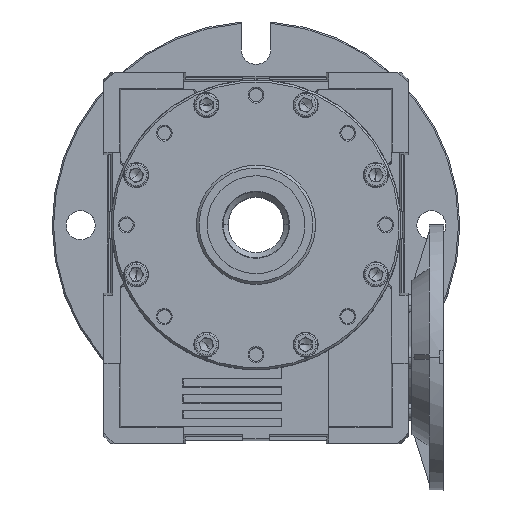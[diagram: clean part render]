
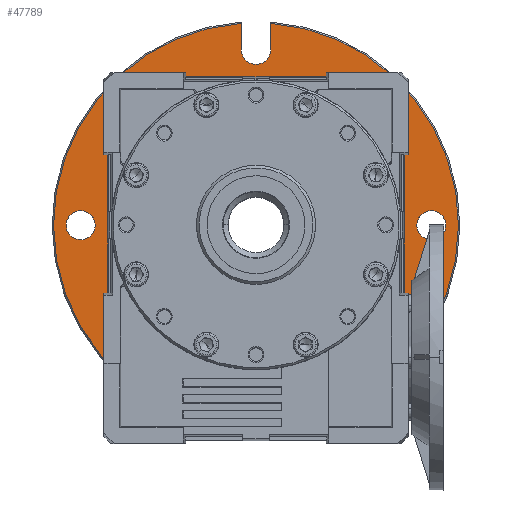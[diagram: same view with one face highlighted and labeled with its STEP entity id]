
A CAD part, top view. The second image highlights one B-rep face of the part: STEP entity #47789.
In plain terms, the highlighted planar face has unit normal (0, 0, 1).
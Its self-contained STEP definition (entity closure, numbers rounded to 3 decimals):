
#184 = CARTESIAN_POINT ( 'NONE',  ( -11., 132.5, -106. ) ) ;
#621 = ORIENTED_EDGE ( 'NONE', *, *, #53093, .T. ) ;
#713 = FACE_OUTER_BOUND ( 'NONE', #35939, .T. ) ;
#1209 = DIRECTION ( 'NONE',  ( 0., 0., -1. ) ) ;
#1382 = DIRECTION ( 'NONE',  ( 0., 0., -1. ) ) ;
#1559 = CARTESIAN_POINT ( 'NONE',  ( -132.5, 0., -106. ) ) ;
#2357 = CIRCLE ( 'NONE', #35630, 109.5 ) ;
#2867 = LINE ( 'NONE', #40014, #3992 ) ;
#3201 = VERTEX_POINT ( 'NONE', #32274 ) ;
#3537 = VERTEX_POINT ( 'NONE', #54125 ) ;
#3944 = EDGE_LOOP ( 'NONE', ( #33892, #40387 ) ) ;
#3949 = DIRECTION ( 'NONE',  ( -1., 0., 0. ) ) ;
#3992 = VECTOR ( 'NONE', #26654, 1000. ) ;
#4251 = DIRECTION ( 'NONE',  ( 0., 0., -1. ) ) ;
#4479 = CARTESIAN_POINT ( 'NONE',  ( 11., 152.604, -106. ) ) ;
#4852 = AXIS2_PLACEMENT_3D ( 'NONE', #27542, #40596, #50656 ) ;
#5261 = CARTESIAN_POINT ( 'NONE',  ( 109.5, 0., -106. ) ) ;
#5745 = EDGE_CURVE ( 'NONE', #25923, #22886, #17001, .T. ) ;
#6092 = VERTEX_POINT ( 'NONE', #33162 ) ;
#6662 = ORIENTED_EDGE ( 'NONE', *, *, #54999, .T. ) ;
#6681 = DIRECTION ( 'NONE',  ( -1., 0., 0. ) ) ;
#7050 = VERTEX_POINT ( 'NONE', #20973 ) ;
#7400 = EDGE_CURVE ( 'NONE', #43192, #6092, #2357, .T. ) ;
#7861 = EDGE_CURVE ( 'NONE', #7050, #48952, #38522, .T. ) ;
#9386 = CARTESIAN_POINT ( 'NONE',  ( -11., 109.5, -106. ) ) ;
#9792 = ORIENTED_EDGE ( 'NONE', *, *, #22401, .T. ) ;
#11370 = CIRCLE ( 'NONE', #29495, 11. ) ;
#11772 = DIRECTION ( 'NONE',  ( -1., 0., 0. ) ) ;
#11891 = DIRECTION ( 'NONE',  ( -1., 0., 0. ) ) ;
#12683 = ORIENTED_EDGE ( 'NONE', *, *, #5745, .T. ) ;
#13552 = DIRECTION ( 'NONE',  ( 0., 0., 1. ) ) ;
#15446 = DIRECTION ( 'NONE',  ( 0., 0., -1. ) ) ;
#16631 = VECTOR ( 'NONE', #28761, 1000. ) ;
#16642 = VERTEX_POINT ( 'NONE', #44309 ) ;
#16785 = CARTESIAN_POINT ( 'NONE',  ( 0., 0., -106. ) ) ;
#17001 = CIRCLE ( 'NONE', #38881, 153. ) ;
#17130 = ORIENTED_EDGE ( 'NONE', *, *, #48810, .T. ) ;
#17321 = CARTESIAN_POINT ( 'NONE',  ( -143.5, 0., -106. ) ) ;
#18015 = FACE_BOUND ( 'NONE', #24247, .T. ) ;
#18220 = CARTESIAN_POINT ( 'NONE',  ( 121.5, 0., -106. ) ) ;
#18615 = DIRECTION ( 'NONE',  ( -1., 0., 0. ) ) ;
#18987 = AXIS2_PLACEMENT_3D ( 'NONE', #41970, #1209, #19407 ) ;
#19064 = VERTEX_POINT ( 'NONE', #18220 ) ;
#19157 = DIRECTION ( 'NONE',  ( -1., 0., 0. ) ) ;
#19407 = DIRECTION ( 'NONE',  ( -1., 0., 0. ) ) ;
#20009 = VERTEX_POINT ( 'NONE', #184 ) ;
#20106 = CARTESIAN_POINT ( 'NONE',  ( 132.5, 0., -106. ) ) ;
#20155 = EDGE_LOOP ( 'NONE', ( #56930, #51628 ) ) ;
#20205 = DIRECTION ( 'NONE',  ( -1., 0., 0. ) ) ;
#20387 = DIRECTION ( 'NONE',  ( 1., 0., 0. ) ) ;
#20454 = DIRECTION ( 'NONE',  ( -1., 0., 0. ) ) ;
#20973 = CARTESIAN_POINT ( 'NONE',  ( -11., 152.604, -106. ) ) ;
#21340 = EDGE_CURVE ( 'NONE', #6092, #43192, #56306, .T. ) ;
#22356 = ORIENTED_EDGE ( 'NONE', *, *, #7861, .T. ) ;
#22401 = EDGE_CURVE ( 'NONE', #3537, #20009, #40716, .T. ) ;
#22886 = VERTEX_POINT ( 'NONE', #4479 ) ;
#23169 = CARTESIAN_POINT ( 'NONE',  ( -121.5, 0., -106. ) ) ;
#23613 = DIRECTION ( 'NONE',  ( 0., 0., -1. ) ) ;
#24247 = EDGE_LOOP ( 'NONE', ( #47906, #55712 ) ) ;
#25306 = CARTESIAN_POINT ( 'NONE',  ( 0., 0., -106. ) ) ;
#25923 = VERTEX_POINT ( 'NONE', #29250 ) ;
#26057 = DIRECTION ( 'NONE',  ( 0., 0., 1. ) ) ;
#26654 = DIRECTION ( 'NONE',  ( 0., -1., 0. ) ) ;
#27542 = CARTESIAN_POINT ( 'NONE',  ( 0., 109.5, -106. ) ) ;
#28153 = DIRECTION ( 'NONE',  ( 0., 0., -1. ) ) ;
#28692 = CARTESIAN_POINT ( 'NONE',  ( 132.5, 0., -106. ) ) ;
#28761 = DIRECTION ( 'NONE',  ( 0., 1., 0. ) ) ;
#29225 = CIRCLE ( 'NONE', #52902, 11. ) ;
#29250 = CARTESIAN_POINT ( 'NONE',  ( 153., 0., -106. ) ) ;
#29377 = VERTEX_POINT ( 'NONE', #23169 ) ;
#29495 = AXIS2_PLACEMENT_3D ( 'NONE', #20106, #28153, #6681 ) ;
#29792 = EDGE_CURVE ( 'NONE', #19064, #16642, #11370, .T. ) ;
#31290 = AXIS2_PLACEMENT_3D ( 'NONE', #35241, #4251, #3949 ) ;
#31480 = EDGE_CURVE ( 'NONE', #3201, #46618, #55998, .T. ) ;
#31705 = FACE_BOUND ( 'NONE', #3944, .T. ) ;
#32274 = CARTESIAN_POINT ( 'NONE',  ( 11., -132.5, -106. ) ) ;
#33162 = CARTESIAN_POINT ( 'NONE',  ( -109.5, 0., -106. ) ) ;
#33231 = LINE ( 'NONE', #9386, #16631 ) ;
#33892 = ORIENTED_EDGE ( 'NONE', *, *, #40287, .T. ) ;
#34322 = CARTESIAN_POINT ( 'NONE',  ( 0., 0., -106. ) ) ;
#34346 = EDGE_CURVE ( 'NONE', #54121, #29377, #46792, .T. ) ;
#34370 = DIRECTION ( 'NONE',  ( 0., 0., 1. ) ) ;
#34482 = EDGE_LOOP ( 'NONE', ( #47047, #6662 ) ) ;
#34637 = ORIENTED_EDGE ( 'NONE', *, *, #43419, .T. ) ;
#35241 = CARTESIAN_POINT ( 'NONE',  ( 0., 132.5, -106. ) ) ;
#35630 = AXIS2_PLACEMENT_3D ( 'NONE', #34322, #43493, #47637 ) ;
#35737 = EDGE_CURVE ( 'NONE', #29377, #54121, #51245, .T. ) ;
#35874 = FACE_BOUND ( 'NONE', #34482, .T. ) ;
#35939 = EDGE_LOOP ( 'NONE', ( #22356, #34637, #12683, #17130, #9792, #621 ) ) ;
#37425 = CARTESIAN_POINT ( 'NONE',  ( -132.5, 0., -106. ) ) ;
#38522 = CIRCLE ( 'NONE', #50766, 153. ) ;
#38881 = AXIS2_PLACEMENT_3D ( 'NONE', #44451, #26057, #11772 ) ;
#40014 = CARTESIAN_POINT ( 'NONE',  ( 11., 109.5, -106. ) ) ;
#40287 = EDGE_CURVE ( 'NONE', #46618, #3201, #56876, .T. ) ;
#40387 = ORIENTED_EDGE ( 'NONE', *, *, #31480, .T. ) ;
#40596 = DIRECTION ( 'NONE',  ( 0., 0., -1. ) ) ;
#40716 = CIRCLE ( 'NONE', #31290, 11. ) ;
#40895 = CARTESIAN_POINT ( 'NONE',  ( -153., 0., -106. ) ) ;
#41970 = CARTESIAN_POINT ( 'NONE',  ( 0., -132.5, -106. ) ) ;
#43130 = DIRECTION ( 'NONE',  ( 0., 0., 1. ) ) ;
#43192 = VERTEX_POINT ( 'NONE', #5261 ) ;
#43419 = EDGE_CURVE ( 'NONE', #48952, #25923, #45985, .T. ) ;
#43493 = DIRECTION ( 'NONE',  ( 0., 0., 1. ) ) ;
#43593 = AXIS2_PLACEMENT_3D ( 'NONE', #55531, #15446, #20205 ) ;
#44309 = CARTESIAN_POINT ( 'NONE',  ( 143.5, 0., -106. ) ) ;
#44451 = CARTESIAN_POINT ( 'NONE',  ( 0., 0., -106. ) ) ;
#45985 = CIRCLE ( 'NONE', #53553, 153. ) ;
#46618 = VERTEX_POINT ( 'NONE', #47019 ) ;
#46792 = CIRCLE ( 'NONE', #54356, 11. ) ;
#47019 = CARTESIAN_POINT ( 'NONE',  ( -11., -132.5, -106. ) ) ;
#47047 = ORIENTED_EDGE ( 'NONE', *, *, #29792, .T. ) ;
#47074 = DIRECTION ( 'NONE',  ( 0., 0., -1. ) ) ;
#47637 = DIRECTION ( 'NONE',  ( 1., 0., 0. ) ) ;
#47789 = ADVANCED_FACE ( 'NONE', ( #35874, #31705, #53929, #713, #18015 ), #49773, .F. ) ;
#47906 = ORIENTED_EDGE ( 'NONE', *, *, #7400, .F. ) ;
#48810 = EDGE_CURVE ( 'NONE', #22886, #3537, #2867, .T. ) ;
#48952 = VERTEX_POINT ( 'NONE', #40895 ) ;
#49773 = PLANE ( 'NONE',  #4852 ) ;
#50656 = DIRECTION ( 'NONE',  ( -1., 0., 0. ) ) ;
#50766 = AXIS2_PLACEMENT_3D ( 'NONE', #25306, #43130, #11891 ) ;
#51245 = CIRCLE ( 'NONE', #57863, 11. ) ;
#51628 = ORIENTED_EDGE ( 'NONE', *, *, #35737, .T. ) ;
#52902 = AXIS2_PLACEMENT_3D ( 'NONE', #28692, #47074, #55082 ) ;
#53093 = EDGE_CURVE ( 'NONE', #20009, #7050, #33231, .T. ) ;
#53553 = AXIS2_PLACEMENT_3D ( 'NONE', #54226, #13552, #18615 ) ;
#53929 = FACE_BOUND ( 'NONE', #20155, .T. ) ;
#54121 = VERTEX_POINT ( 'NONE', #17321 ) ;
#54125 = CARTESIAN_POINT ( 'NONE',  ( 11., 132.5, -106. ) ) ;
#54226 = CARTESIAN_POINT ( 'NONE',  ( 0., 0., -106. ) ) ;
#54356 = AXIS2_PLACEMENT_3D ( 'NONE', #37425, #1382, #20454 ) ;
#54999 = EDGE_CURVE ( 'NONE', #16642, #19064, #29225, .T. ) ;
#55082 = DIRECTION ( 'NONE',  ( -1., 0., 0. ) ) ;
#55341 = AXIS2_PLACEMENT_3D ( 'NONE', #16785, #34370, #20387 ) ;
#55531 = CARTESIAN_POINT ( 'NONE',  ( 0., -132.5, -106. ) ) ;
#55712 = ORIENTED_EDGE ( 'NONE', *, *, #21340, .F. ) ;
#55998 = CIRCLE ( 'NONE', #18987, 11. ) ;
#56306 = CIRCLE ( 'NONE', #55341, 109.5 ) ;
#56876 = CIRCLE ( 'NONE', #43593, 11. ) ;
#56930 = ORIENTED_EDGE ( 'NONE', *, *, #34346, .T. ) ;
#57863 = AXIS2_PLACEMENT_3D ( 'NONE', #1559, #23613, #19157 ) ;
